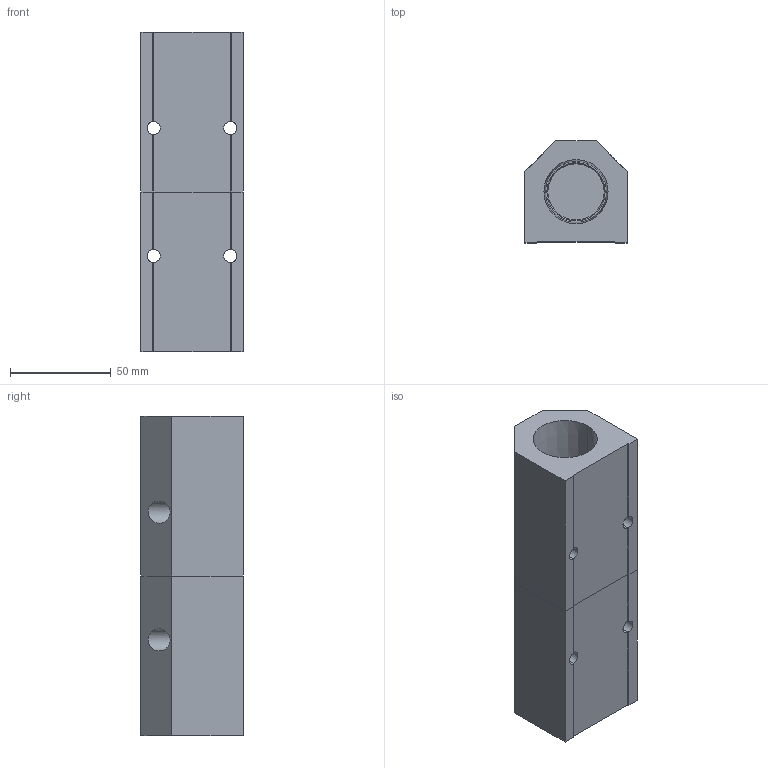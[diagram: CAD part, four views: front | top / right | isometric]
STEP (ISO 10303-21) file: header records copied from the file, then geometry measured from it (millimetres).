
FILE_DESCRIPTION (( 'STEP AP214' ), '1' );
FILE_NAME ('ALM4C-N4N16-159RB.STEP', '2023-11-02T06:11:17', ( '' ), ( '' ), 'SwSTEP 2.0', 'SolidWorks 2020', '' );
FILE_SCHEMA (( 'AUTOMOTIVE_DESIGN' ));
Length unit declared in the file: millimetre
Products named in the file (1): ALM4C-N4N16-159RB
Bounding box: 50.8 x 50.8 x 159 mm (x, y, z)
Volume: 252515.1 mm3; surface area: 57239.5 mm2
Topology: 2 solids, 2 shells, 318 faces, 821 edges, 542 vertices
Faces by surface type: plane 226, bspline 52, cylinder 24, cone 16
Entity records: 16240 total; most frequent: CARTESIAN_POINT 5902, ORIENTED_EDGE 1642, DIRECTION 1283, EDGE_CURVE 821, LINE 637, VECTOR 637, VERTEX_POINT 542, EDGE_LOOP 369
